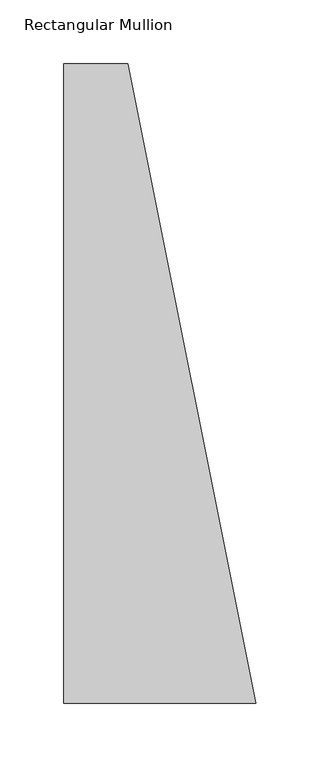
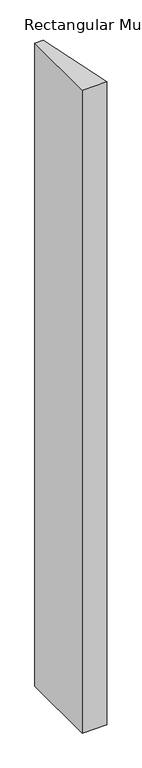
"""IFC4 building model written with IfcOpenShell, lengths in millimetres: member geometry, Rectangular Mullion : 500(350+150)x150x50mm."""

from ifc_helpers import new_model, si_unit, frame, origin, place, context, project, spatial, polyline, outline, extrude, source, transform, mapped, element, save


def rectangular_mullion_3cf235b6(model_context):
    return source(origin(), model_context, "Body", "SweptSolid", [
        extrude(outline(polyline([(-150.0, 150.0), (-100.0, 150.0), (0.0, -350.0), (-150.0, -350.0), (-150.0, 150.0)])), frame((0.0, 0.0, -4150.0), z_axis=(0.0, 0.0, 1.0), x_axis=(1.0, 0.0, 0.0)), (0.0, 0.0, 1.0), 4150.0),
    ])


if __name__ == "__main__":
    model = new_model("IFC4")
    model_context = context("Model", 3, world=origin())
    ifc_project = project(units=[si_unit("LENGTHUNIT", "METRE", prefix="MILLI")], contexts=[model_context])
    site = spatial("IfcSite", under=ifc_project)
    building = spatial("IfcBuilding", under=site)
    placement = place(None, origin())
    rectangular_mullion_shape = rectangular_mullion_3cf235b6(model_context)
    element("IfcMember", 1, ObjectType="Rectangular Mullion : 500(350+150)x150x50mm", at=placement, inside=building, context=model_context, shape_type="MappedRepresentation", body=[
        mapped(rectangular_mullion_shape, transform((0.0, 0.0, 0.0), x_axis=(1.0, 0.0, 0.0), y_axis=(0.0, 1.0, 0.0), z_axis=(0.0, 0.0, 1.0))),
    ])
    save(model, "model.ifc")
